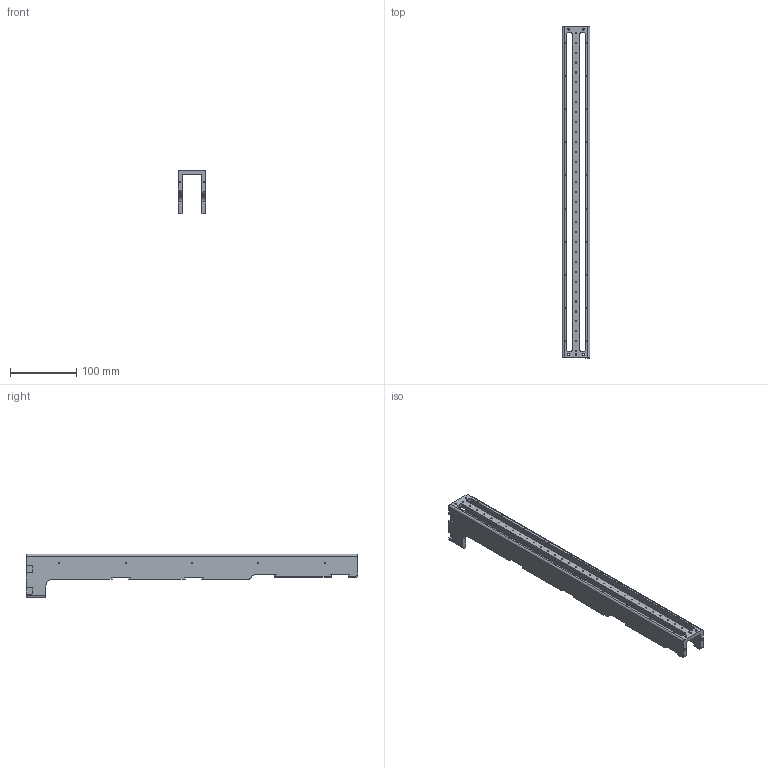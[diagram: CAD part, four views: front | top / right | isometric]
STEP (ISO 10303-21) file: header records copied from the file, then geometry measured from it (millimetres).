
FILE_DESCRIPTION(/* description */ (''),/* implementation_level */ '2;1');
FILE_NAME(/* name */ 'MAIN CHASSIS.step',/* time_stamp */ '2026-10-23T15:28:48+05:30',/* author */ (''),/* organization */ (''),/* preprocessor_version */ 'ST-DEVELOPER v20.2',/* originating_system */ 'Autodesk Translation Framework v15.15.0.0',/* authorisation */ '');
FILE_SCHEMA (('AUTOMOTIVE_DESIGN { 1 0 10303 214 3 1 1 }'));
Length unit declared in the file: millimetre
Products named in the file (1): 2026-10-23-15-28-48-387
Bounding box: 42 x 500 x 66 mm (x, y, z)
Volume: 251898 mm3; surface area: 110507.6 mm2
Topology: 1 solids, 1 shells, 282 faces, 786 edges, 506 vertices
Faces by surface type: cylinder 160, plane 68, cone 54
Full cylindrical faces by diameter (mm): 1.623 x63, 2.529 x39, 3.2 x2
Entity records: 9061 total; most frequent: DIRECTION 1618, CARTESIAN_POINT 1521, ORIENTED_EDGE 1464, EDGE_CURVE 732, AXIS2_PLACEMENT_3D 603, VERTEX_POINT 506, EDGE_LOOP 436, LINE 412
